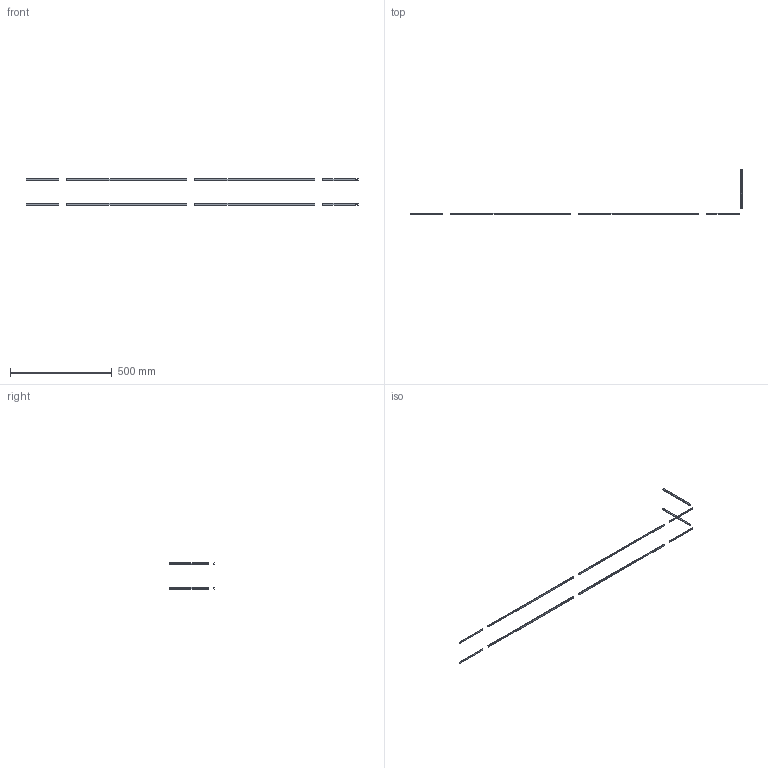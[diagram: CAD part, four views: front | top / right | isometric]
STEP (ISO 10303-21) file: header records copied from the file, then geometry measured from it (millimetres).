
FILE_DESCRIPTION(/* description */ (''),/* implementation_level */ '2;1');
FILE_NAME(/* name */ '1.frame-bottom#1.7#HSCP3H-B-12',/* time_stamp */ '2014-12-01T20:11:31+01:00',/* author */ (''),/* organization */ (''),/* preprocessor_version */ 'ST-DEVELOPER v14',/* originating_system */ '',/* authorisation */ '');
FILE_SCHEMA (('AUTOMOTIVE_DESIGN'));
Length unit declared in the file: millimetre
Products named in the file (1): Document
Bounding box: 1633.03 x 220 x 130 mm (x, y, z)
Volume: 97125.4 mm3; surface area: 95101.6 mm2
Topology: 10 solids, 10 shells, 110 faces, 270 edges, 180 vertices
Faces by surface type: plane 70, bspline 40
Entity records: 6045 total; most frequent: CARTESIAN_POINT 2382, B_SPLINE_CURVE_WITH_KNOTS 650, ORIENTED_EDGE 540, PCURVE 540, DEFINITIONAL_REPRESENTATION 540, SURFACE_CURVE 270, EDGE_CURVE 270, VERTEX_POINT 180
